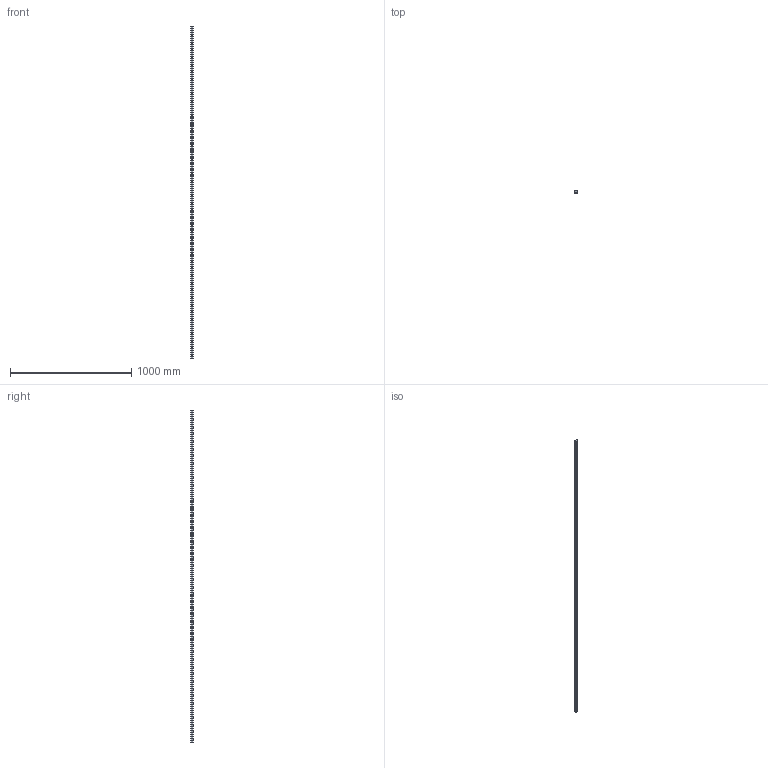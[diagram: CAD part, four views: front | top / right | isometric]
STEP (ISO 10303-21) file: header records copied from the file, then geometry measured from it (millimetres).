
FILE_DESCRIPTION (( 'STEP AP203' ), '1' );
FILE_NAME ('L1016.BRF25-2740.step', '2019-06-13T08:43:41', ( '' ), ( '' ), 'SwSTEP 2.0', 'SolidWorks 2017', '' );
FILE_SCHEMA (( 'CONFIG_CONTROL_DESIGN' ));
Length unit declared in the file: millimetre
Products named in the file (1): L1016.BRF25-2740
Bounding box: 23 x 19.2 x 2740 mm (x, y, z)
Volume: 1046133.5 mm3; surface area: 252209.3 mm2
Topology: 1 solids, 1 shells, 348 faces, 808 edges, 462 vertices
Faces by surface type: cylinder 188, cone 92, plane 68
Entity records: 9365 total; most frequent: DIRECTION 1790, CARTESIAN_POINT 1527, ORIENTED_EDGE 1432, AXIS2_PLACEMENT_3D 725, EDGE_CURVE 716, VERTEX_POINT 462, EDGE_LOOP 440, CIRCLE 376
